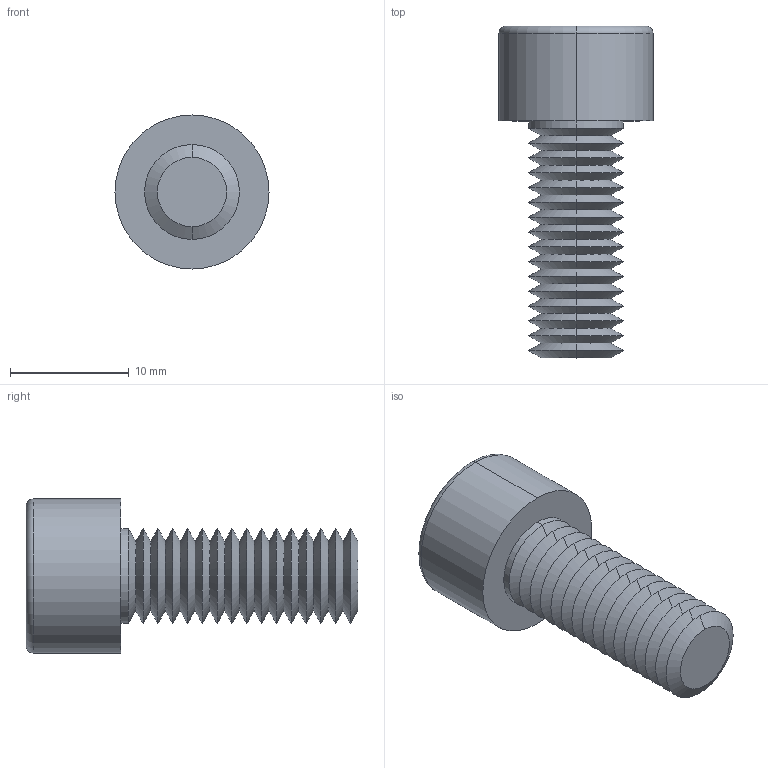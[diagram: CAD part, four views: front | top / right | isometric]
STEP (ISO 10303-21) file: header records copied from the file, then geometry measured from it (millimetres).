
FILE_DESCRIPTION (( 'STEP AP203' ), '1' );
FILE_NAME ('91N.080.0200.step', '2025-05-20T08:53:55', ( '' ), ( '' ), 'SwSTEP 2.0', 'SolidWorks 2019', '' );
FILE_SCHEMA (( 'CONFIG_CONTROL_DESIGN' ));
Length unit declared in the file: millimetre
Products named in the file (1): 91N.080.0200
Bounding box: 13 x 28 x 13 mm (x, y, z)
Volume: 1620.3 mm3; surface area: 1543 mm2
Topology: 1 solids, 1 shells, 92 faces, 183 edges, 93 vertices
Faces by surface type: cone 71, plane 15, cylinder 4, torus 2
Entity records: 2378 total; most frequent: DIRECTION 447, CARTESIAN_POINT 394, ORIENTED_EDGE 362, EDGE_CURVE 181, AXIS2_PLACEMENT_3D 180, EDGE_LOOP 94, VERTEX_POINT 93, ADVANCED_FACE 92
